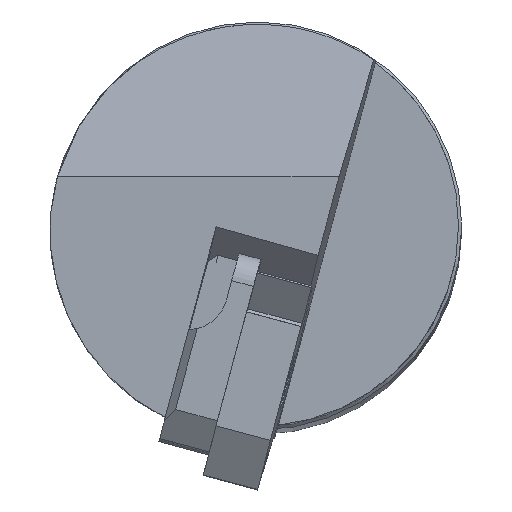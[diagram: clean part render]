
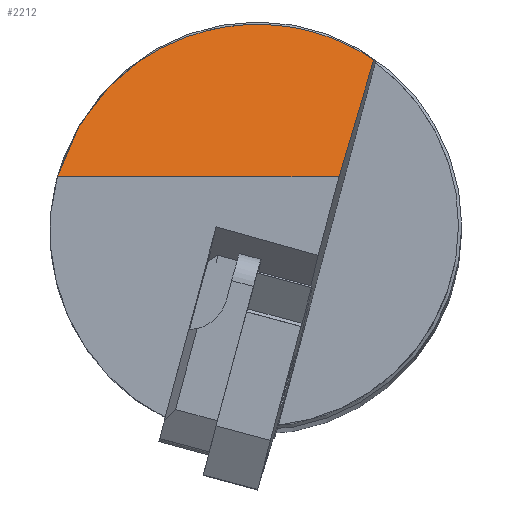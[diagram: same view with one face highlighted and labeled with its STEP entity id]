
A CAD part, top view. The second image highlights one B-rep face of the part: STEP entity #2212.
In plain terms, the highlighted planar face has unit normal (0, 0.848, 0.53).
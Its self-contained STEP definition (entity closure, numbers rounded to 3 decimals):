
#27 = VECTOR ( 'NONE', #665, 1000. ) ;
#37 = CARTESIAN_POINT ( 'NONE',  ( 7.226, 10.29, -11.667 ) ) ;
#80 = CARTESIAN_POINT ( 'NONE',  ( -12.46, 3., 0. ) ) ;
#153 =( BOUNDED_CURVE ( )  B_SPLINE_CURVE ( 3, ( #398, #1613, #197, #37 ),
 .UNSPECIFIED., .F., .F. ) 
 B_SPLINE_CURVE_WITH_KNOTS ( ( 4, 4 ),
 ( 1.839, 3.735 ),
 .UNSPECIFIED. ) 
 CURVE ( )  GEOMETRIC_REPRESENTATION_ITEM ( )  RATIONAL_B_SPLINE_CURVE ( ( 1., 0.722, 0.722, 1. ) ) 
 REPRESENTATION_ITEM ( '' )  );
#186 = LINE ( 'NONE', #1502, #27 ) ;
#197 = CARTESIAN_POINT ( 'NONE',  ( -0.807, 15.71, -20.34 ) ) ;
#242 = VERTEX_POINT ( 'NONE', #80 ) ;
#270 = VERTEX_POINT ( 'NONE', #579 ) ;
#309 = EDGE_CURVE ( 'NONE', #1394, #270, #186, .T. ) ;
#345 = ORIENTED_EDGE ( 'NONE', *, *, #309, .F. ) ;
#398 = CARTESIAN_POINT ( 'NONE',  ( -12.46, 3., 0. ) ) ;
#411 = FACE_OUTER_BOUND ( 'NONE', #495, .T. ) ;
#495 = EDGE_LOOP ( 'NONE', ( #1652, #1118, #345 ) ) ;
#579 = CARTESIAN_POINT ( 'NONE',  ( 5.069, 3., 0. ) ) ;
#614 = PLANE ( 'NONE',  #1973 ) ;
#665 = DIRECTION ( 'NONE',  ( -0.155, -0.524, 0.838 ) ) ;
#734 = CARTESIAN_POINT ( 'NONE',  ( -13.3, 3., 0. ) ) ;
#769 = LINE ( 'NONE', #734, #1399 ) ;
#1118 = ORIENTED_EDGE ( 'NONE', *, *, #1992, .T. ) ;
#1155 = CARTESIAN_POINT ( 'NONE',  ( -13.3, 3., 0. ) ) ;
#1329 = DIRECTION ( 'NONE',  ( 0., 0.53, -0.848 ) ) ;
#1394 = VERTEX_POINT ( 'NONE', #1606 ) ;
#1399 = VECTOR ( 'NONE', #1763, 1000. ) ;
#1462 = EDGE_CURVE ( 'NONE', #242, #1394, #153, .T. ) ;
#1477 = DIRECTION ( 'NONE',  ( 0., -0.848, -0.53 ) ) ;
#1502 = CARTESIAN_POINT ( 'NONE',  ( 9.312, 17.341, -22.95 ) ) ;
#1606 = CARTESIAN_POINT ( 'NONE',  ( 7.226, 10.29, -11.667 ) ) ;
#1613 = CARTESIAN_POINT ( 'NONE',  ( -9.894, 12.345, -14.954 ) ) ;
#1652 = ORIENTED_EDGE ( 'NONE', *, *, #1462, .F. ) ;
#1763 = DIRECTION ( 'NONE',  ( 1., 0., 0. ) ) ;
#1973 = AXIS2_PLACEMENT_3D ( 'NONE', #1155, #1477, #1329 ) ;
#1992 = EDGE_CURVE ( 'NONE', #242, #270, #769, .T. ) ;
#2212 = ADVANCED_FACE ( 'NONE', ( #411 ), #614, .F. ) ;
